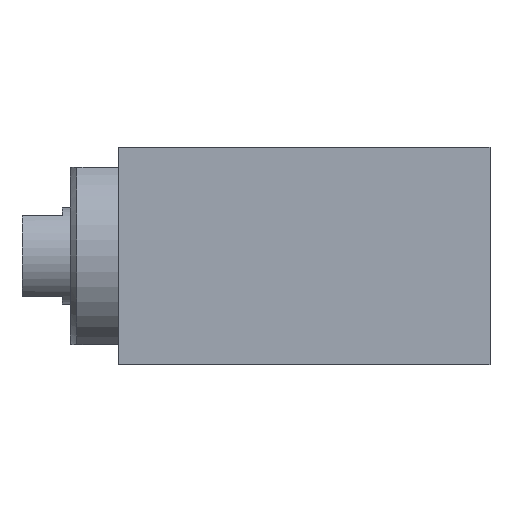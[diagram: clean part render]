
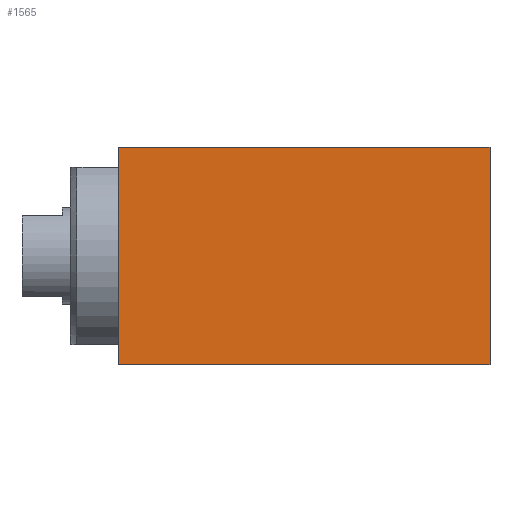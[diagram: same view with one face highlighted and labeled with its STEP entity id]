
A CAD part, front view. The second image highlights one B-rep face of the part: STEP entity #1565.
In plain terms, the highlighted planar face has unit normal (0, -1, 0).
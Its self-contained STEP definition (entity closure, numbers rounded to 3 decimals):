
#7 = CARTESIAN_POINT ( 'NONE',  ( 23., -11.5, -6.75 ) ) ;
#28 = AXIS2_PLACEMENT_3D ( 'NONE', #7, #697, #2166 ) ;
#39 = VECTOR ( 'NONE', #1184, 1000. ) ;
#51 = VERTEX_POINT ( 'NONE', #1809 ) ;
#525 = CARTESIAN_POINT ( 'NONE',  ( 23., -11.5, 6.75 ) ) ;
#552 = CARTESIAN_POINT ( 'NONE',  ( 23., -11.5, -6.75 ) ) ;
#637 = VERTEX_POINT ( 'NONE', #737 ) ;
#697 = DIRECTION ( 'NONE',  ( 0., -1., 0. ) ) ;
#737 = CARTESIAN_POINT ( 'NONE',  ( 0., -11.5, 6.75 ) ) ;
#740 = CARTESIAN_POINT ( 'NONE',  ( 23., -11.5, 6.75 ) ) ;
#880 = VERTEX_POINT ( 'NONE', #2323 ) ;
#921 = FACE_OUTER_BOUND ( 'NONE', #934, .T. ) ;
#934 = EDGE_LOOP ( 'NONE', ( #1771, #2819, #1032, #1924 ) ) ;
#1032 = ORIENTED_EDGE ( 'NONE', *, *, #3017, .T. ) ;
#1184 = DIRECTION ( 'NONE',  ( 0., 0., 1. ) ) ;
#1272 = VECTOR ( 'NONE', #1620, 1000. ) ;
#1565 = ADVANCED_FACE ( 'NONE', ( #921 ), #2783, .T. ) ;
#1620 = DIRECTION ( 'NONE',  ( 0., 0., 1. ) ) ;
#1655 = EDGE_CURVE ( 'NONE', #51, #880, #2211, .T. ) ;
#1661 = LINE ( 'NONE', #2827, #39 ) ;
#1771 = ORIENTED_EDGE ( 'NONE', *, *, #2245, .F. ) ;
#1809 = CARTESIAN_POINT ( 'NONE',  ( 23., -11.5, -6.75 ) ) ;
#1829 = VECTOR ( 'NONE', #2610, 1000. ) ;
#1908 = LINE ( 'NONE', #740, #1829 ) ;
#1924 = ORIENTED_EDGE ( 'NONE', *, *, #2718, .T. ) ;
#2090 = LINE ( 'NONE', #3018, #1272 ) ;
#2166 = DIRECTION ( 'NONE',  ( 1., 0., 0. ) ) ;
#2211 = LINE ( 'NONE', #552, #2473 ) ;
#2245 = EDGE_CURVE ( 'NONE', #880, #637, #1661, .T. ) ;
#2323 = CARTESIAN_POINT ( 'NONE',  ( 0., -11.5, -6.75 ) ) ;
#2438 = DIRECTION ( 'NONE',  ( -1., 0., 0. ) ) ;
#2473 = VECTOR ( 'NONE', #2438, 1000. ) ;
#2610 = DIRECTION ( 'NONE',  ( -1., 0., 0. ) ) ;
#2718 = EDGE_CURVE ( 'NONE', #2792, #637, #1908, .T. ) ;
#2783 = PLANE ( 'NONE',  #28 ) ;
#2792 = VERTEX_POINT ( 'NONE', #525 ) ;
#2819 = ORIENTED_EDGE ( 'NONE', *, *, #1655, .F. ) ;
#2827 = CARTESIAN_POINT ( 'NONE',  ( 0., -11.5, -6.75 ) ) ;
#3017 = EDGE_CURVE ( 'NONE', #51, #2792, #2090, .T. ) ;
#3018 = CARTESIAN_POINT ( 'NONE',  ( 23., -11.5, -6.75 ) ) ;
